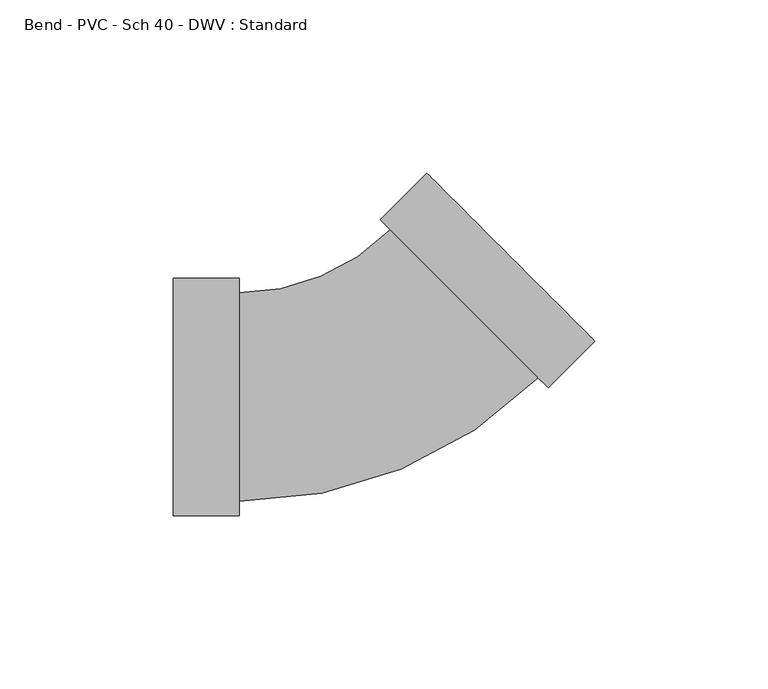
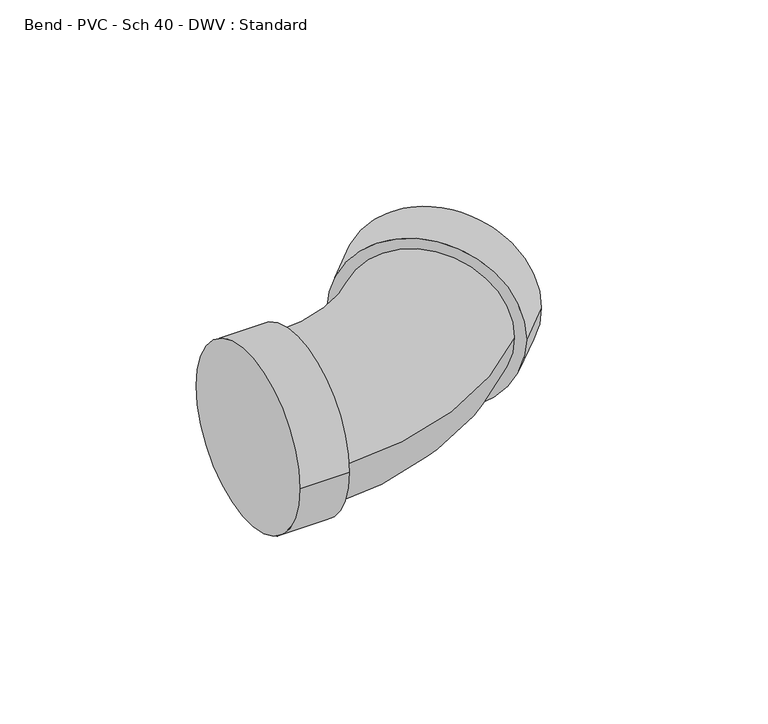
"""IFC4 building model written with IfcOpenShell, lengths in millimetres: pipe fitting geometry, Bend - PVC - Sch 40 - DWV : Standard."""

from ifc_helpers import new_model, si_unit, point, frame, origin, place, context, project, spatial, circle_curve, ellipse_curve, trimmed, source, transform, mapped, element, save
from ifc_brep_helpers import plane_surface, cylinder_surface, revolved_surface, advanced_brep


def bend_pvc_sch_40_dwv_standard_c61357fd(model_context):
    return source(origin(), model_context, "Body", "AdvancedBrep", [
        advanced_brep(
        [(-57.15, -34.3154, 0.0), (-57.15, 34.3154, 0.0), (-38.1, -34.3154, 0.0), (-38.1, 34.3154, 0.0), (-38.1, -30.1625, 0.0), (-38.1, 30.1625, 0.0), (5.6148278, 48.2686245, 0.0), (48.2691287, 5.6104924, 0.0), (51.2055405, 2.6738167, 0.0), (2.6784159, 51.2053002, 0.0), (64.6765296, 16.1435959, 0.0), (16.149405, 64.6750794, 0.0)],
        [
            (0, 1, circle_curve(frame((-57.15, 0.0, 0.0), z_axis=(-1.0, 0.0, 0.0), x_axis=(0.0, 1.0, 0.0)), 34.3154)),
            (1, 0, circle_curve(frame((-57.15, 0.0, 0.0), z_axis=(-1.0, 0.0, 0.0), x_axis=(0.0, 1.0, 0.0)), 34.3154)),
            (2, 3, circle_curve(frame((-38.1, 0.0, 0.0), z_axis=(1.0, 0.0, 0.0), x_axis=(0.0, 1.0, 0.0)), 34.3154)),
            (3, 2, circle_curve(frame((-38.1, 0.0, 0.0), z_axis=(1.0, 0.0, 0.0), x_axis=(0.0, 1.0, 0.0)), 34.3154)),
            (4, 5, circle_curve(frame((-38.1, 0.0, 0.0), z_axis=(-1.0, 0.0, 0.0), x_axis=(0.0, 1.0, 0.0)), 30.1625)),
            (5, 4, circle_curve(frame((-38.1, 0.0, 0.0), z_axis=(-1.0, 0.0, 0.0), x_axis=(0.0, 1.0, 0.0)), 30.1625)),
            (0, 2),
            (3, 1),
            (6, 5, circle_curve(frame((-38.1, 91.9873789, 0.0), z_axis=(0.0, 0.0, -1.0), x_axis=(0.0, -1.0, 0.0)), 61.8248789)),
            (4, 7, circle_curve(frame((-38.1, 91.9873789, 0.0), z_axis=(0.0, 0.0, 1.0), x_axis=(0.0, -1.0, 0.0)), 122.1498789)),
            (7, 6, circle_curve(frame((26.9419782, 26.9395584, 0.0), z_axis=(-0.7071385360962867, -0.7070750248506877, 0.0), x_axis=(-0.7070750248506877, 0.7071385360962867, 0.0)), 30.1625)),
            (6, 7, circle_curve(frame((26.9419782, 26.9395584, 0.0), z_axis=(-0.7071385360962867, -0.7070750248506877, 0.0), x_axis=(-0.7070750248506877, 0.7071385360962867, 0.0)), 30.1625)),
            (8, 9, circle_curve(frame((26.9419782, 26.9395584, 0.0), z_axis=(-0.707138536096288, -0.7070750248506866, 0.0), x_axis=(-0.7070750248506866, 0.707138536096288, 0.0)), 34.3154)),
            (9, 8, circle_curve(frame((26.9419782, 26.9395584, 0.0), z_axis=(-0.707138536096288, -0.7070750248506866, 0.0), x_axis=(-0.7070750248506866, 0.707138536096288, 0.0)), 34.3154)),
            (10, 11, circle_curve(frame((40.4129673, 40.4093377, 0.0), z_axis=(0.707138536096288, 0.7070750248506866, 0.0), x_axis=(-0.7070750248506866, 0.707138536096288, 0.0)), 34.3154)),
            (11, 10, circle_curve(frame((40.4129673, 40.4093377, 0.0), z_axis=(0.707138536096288, 0.7070750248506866, 0.0), x_axis=(-0.7070750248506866, 0.707138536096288, 0.0)), 34.3154)),
            (8, 10),
            (11, 9),
        ],
        [
            plane_surface(frame((-57.15, 0.0, 0.0), z_axis=(-1.0, 0.0, 0.0), x_axis=(0.0, 0.0, 1.0))),
            plane_surface(frame((-38.1, 0.0, 0.0), z_axis=(1.0, 0.0, 0.0), x_axis=(0.0, 0.0, 1.0))),
            cylinder_surface(frame((-57.15, 0.0, 0.0), z_axis=(-1.0, 0.0, 0.0), x_axis=(0.0, 1.0, 0.0)), 34.3154),
            revolved_surface(trimmed(ellipse_curve(frame((-38.1, 0.0, 0.0), z_axis=(-1.0, 0.0, 0.0), x_axis=(0.0, 1.0, 0.0)), 30.1625, 30.1625), [point((-38.1, -30.1625, 0.0))], [point((-38.1, 30.1625, 0.0))], True, "CARTESIAN"), (-38.1, 91.9873789, 0.0), (0.0, 0.0, 1.0)),
            revolved_surface(trimmed(ellipse_curve(frame((-38.1, 0.0, 0.0), z_axis=(-1.0, 0.0, 0.0), x_axis=(0.0, 1.0, 0.0)), 30.1625, 30.1625), [point((-38.1, 30.1625, 0.0))], [point((-38.1, -30.1625, 0.0))], True, "CARTESIAN"), (-38.1, 91.9873789, 0.0), (0.0, 0.0, 1.0)),
            plane_surface(frame((26.9419782, 26.9395584, 0.0), z_axis=(-0.707138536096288, -0.7070750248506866, 0.0), x_axis=(0.0, 0.0, 1.0))),
            plane_surface(frame((40.4129673, 40.4093377, 0.0), z_axis=(0.707138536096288, 0.7070750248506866, 0.0), x_axis=(0.0, 0.0, 1.0))),
            cylinder_surface(frame((26.9419782, 26.9395584, 0.0), z_axis=(-0.707138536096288, -0.7070750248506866, 0.0), x_axis=(-0.7070750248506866, 0.707138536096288, 0.0)), 34.3154),
        ],
        [
            (0, [[1, 2]]),
            (1, [[3, 4], [5, 6]]),
            (2, [[-1, 7, -4, 8]]),
            (2, [[-2, -8, -3, -7]]),
            (3, [[9, -5, 10, 11]]),
            (4, [[-9, 12, -10, -6]]),
            (5, [[13, 14], [-11, -12]]),
            (6, [[15, 16]]),
            (7, [[-13, 17, -16, 18]]),
            (7, [[-14, -18, -15, -17]]),
        ],
    ),
    ])


if __name__ == "__main__":
    model = new_model("IFC4")
    model_context = context("Model", 3, world=origin())
    ifc_project = project(units=[si_unit("LENGTHUNIT", "METRE", prefix="MILLI")], contexts=[model_context])
    site = spatial("IfcSite", under=ifc_project)
    building = spatial("IfcBuilding", under=site)
    placement = place(None, origin())
    bend_pvc_sch_40_dwv_standard_shape = bend_pvc_sch_40_dwv_standard_c61357fd(model_context)
    element("IfcPipeFitting", 1, ObjectType="Bend - PVC - Sch 40 - DWV : Standard", at=placement, inside=building, context=model_context, shape_type="MappedRepresentation", body=[
        mapped(bend_pvc_sch_40_dwv_standard_shape, transform((0.0, 0.0, 0.0), x_axis=(1.0, 0.0, 0.0), y_axis=(0.0, 1.0, 0.0), z_axis=(0.0, 0.0, 1.0))),
    ])
    save(model, "model.ifc")
